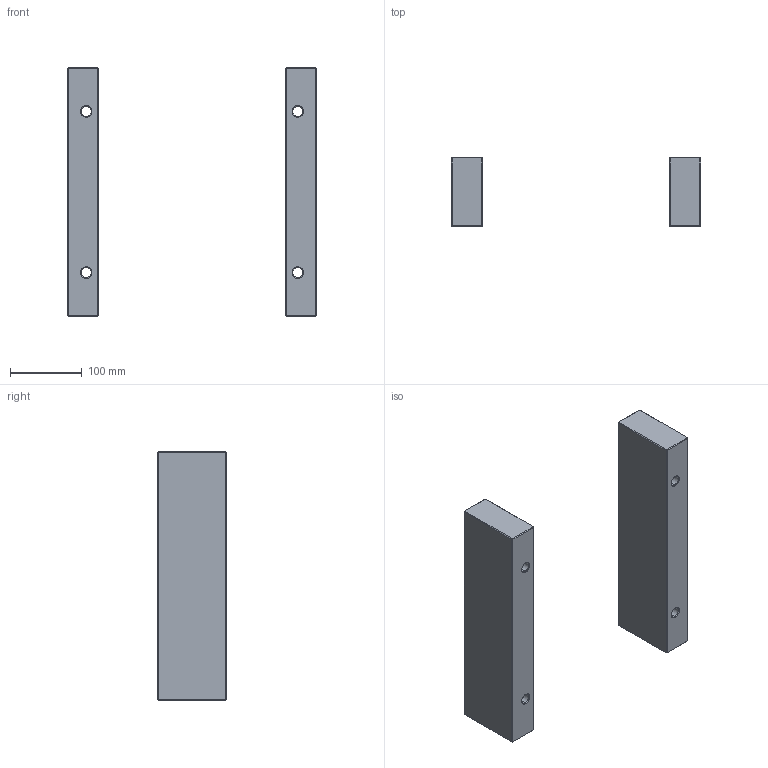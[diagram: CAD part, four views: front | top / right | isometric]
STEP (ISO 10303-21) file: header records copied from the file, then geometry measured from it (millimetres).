
FILE_DESCRIPTION (( 'STEP AP214' ), '1' );
FILE_NAME ('ESP-346X346x96.STEP', '2020-04-14T08:23:18', ( 'August' ), ( '' ), 'SwSTEP 2.0', 'SolidWorks 2018', '' );
FILE_SCHEMA (( 'AUTOMOTIVE_DESIGN' ));
Length unit declared in the file: millimetre
Products named in the file (1): ESP-346X346x96
Bounding box: 346 x 96 x 346 mm (x, y, z)
Volume: 2795350.2 mm3; surface area: 222071.1 mm2
Topology: 2 solids, 2 shells, 76 faces, 152 edges, 80 vertices
Faces by surface type: plane 52, cone 16, cylinder 8
Entity records: 1935 total; most frequent: DIRECTION 338, CARTESIAN_POINT 309, ORIENTED_EDGE 304, EDGE_CURVE 152, VECTOR 120, LINE 120, AXIS2_PLACEMENT_3D 109, EDGE_LOOP 84
